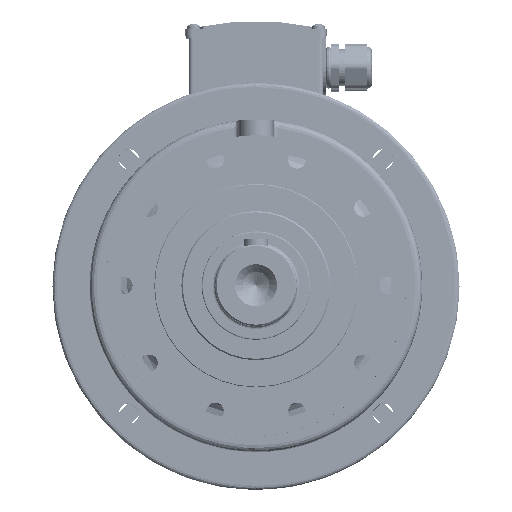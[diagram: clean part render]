
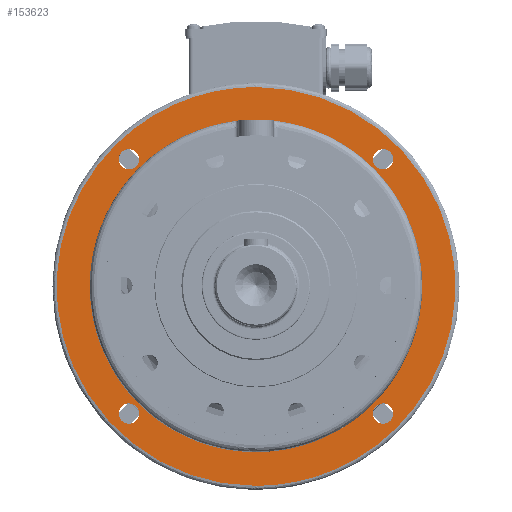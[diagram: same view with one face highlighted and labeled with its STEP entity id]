
A CAD part, top view. The second image highlights one B-rep face of the part: STEP entity #153623.
In plain terms, the highlighted planar face has unit normal (0, 0, 1).
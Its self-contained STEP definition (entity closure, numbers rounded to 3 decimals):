
#7937 = CARTESIAN_POINT ( 'NONE',  ( 86.192, 93.692, -77.5 ) ) ;
#7944 = CARTESIAN_POINT ( 'NONE',  ( 86.192, -93.692, -77.5 ) ) ;
#7962 = CARTESIAN_POINT ( 'NONE',  ( 113., 0., -77.5 ) ) ;
#7969 = CARTESIAN_POINT ( 'NONE',  ( -113., 0., -77.5 ) ) ;
#7993 = CARTESIAN_POINT ( 'NONE',  ( 101.192, -93.692, -77.5 ) ) ;
#7998 = CARTESIAN_POINT ( 'NONE',  ( -101.192, 93.692, -77.5 ) ) ;
#8004 = CARTESIAN_POINT ( 'NONE',  ( -86.192, 93.692, -77.5 ) ) ;
#8021 = CARTESIAN_POINT ( 'NONE',  ( 101.192, 93.692, -77.5 ) ) ;
#8045 = CARTESIAN_POINT ( 'NONE',  ( -101.192, -93.692, -77.5 ) ) ;
#8055 = CARTESIAN_POINT ( 'NONE',  ( -86.192, -93.692, -77.5 ) ) ;
#8290 = CARTESIAN_POINT ( 'NONE',  ( 0., -147., -77.5 ) ) ;
#8317 = CARTESIAN_POINT ( 'NONE',  ( 0., 147., -77.5 ) ) ;
#21658 = EDGE_CURVE ( 'NONE', #160749, #160707, #176989, .T. ) ;
#21743 = EDGE_CURVE ( 'NONE', #160944, #160822, #177000, .T. ) ;
#21975 = EDGE_CURVE ( 'NONE', #160630, #160671, #177147, .T. ) ;
#22130 = EDGE_CURVE ( 'NONE', #160726, #160711, #177204, .T. ) ;
#22274 = EDGE_CURVE ( 'NONE', #160645, #160565, #177271, .T. ) ;
#22374 = EDGE_LOOP ( 'NONE', ( #61704, #61712 ) ) ;
#22390 = EDGE_LOOP ( 'NONE', ( #61723, #61699 ) ) ;
#22513 = EDGE_LOOP ( 'NONE', ( #61692, #61702 ) ) ;
#22559 = EDGE_LOOP ( 'NONE', ( #61729, #61734 ) ) ;
#24824 = EDGE_LOOP ( 'NONE', ( #60730, #61708 ) ) ;
#24837 = EDGE_LOOP ( 'NONE', ( #61732, #61726 ) ) ;
#37409 = CIRCLE ( 'NONE', #90638, 7.5 ) ;
#37687 = CIRCLE ( 'NONE', #90607, 7.5 ) ;
#37716 = CIRCLE ( 'NONE', #90615, 7.5 ) ;
#37748 = CIRCLE ( 'NONE', #90658, 113. ) ;
#37754 = CIRCLE ( 'NONE', #90643, 7.5 ) ;
#44911 = DIRECTION ( 'NONE',  ( -1., 0., 0. ) ) ;
#44923 = DIRECTION ( 'NONE',  ( 0., 0., -1. ) ) ;
#44991 = CARTESIAN_POINT ( 'NONE',  ( 93.692, 93.692, -77.5 ) ) ;
#45356 = DIRECTION ( 'NONE',  ( 0., 0., -1. ) ) ;
#45374 = CARTESIAN_POINT ( 'NONE',  ( 0., 0., -77.5 ) ) ;
#45423 = DIRECTION ( 'NONE',  ( -1., 0., 0. ) ) ;
#45450 = DIRECTION ( 'NONE',  ( 0., 0., -1. ) ) ;
#45526 = CARTESIAN_POINT ( 'NONE',  ( -93.692, 93.692, -77.5 ) ) ;
#45535 = DIRECTION ( 'NONE',  ( -1., 0., 0. ) ) ;
#45553 = DIRECTION ( 'NONE',  ( 0., 0., -1. ) ) ;
#45560 = CARTESIAN_POINT ( 'NONE',  ( -93.692, -93.692, -77.5 ) ) ;
#45562 = DIRECTION ( 'NONE',  ( -1., 0., 0. ) ) ;
#45624 = CARTESIAN_POINT ( 'NONE',  ( -294., 147., -77.5 ) ) ;
#45638 = CARTESIAN_POINT ( 'NONE',  ( 0., -147., -77.5 ) ) ;
#45646 = CARTESIAN_POINT ( 'NONE',  ( 0., 147., -77.5 ) ) ;
#45662 = CARTESIAN_POINT ( 'NONE',  ( 93.692, -93.692, -77.5 ) ) ;
#45672 = DIRECTION ( 'NONE',  ( -1., 0., 0. ) ) ;
#45695 = DIRECTION ( 'NONE',  ( 0., 0., -1. ) ) ;
#45709 = CARTESIAN_POINT ( 'NONE',  ( -294., -147., -77.5 ) ) ;
#52904 = EDGE_CURVE ( 'NONE', #160707, #160749, #37409, .T. ) ;
#53215 = EDGE_CURVE ( 'NONE', #160565, #160645, #37748, .T. ) ;
#53303 = EDGE_CURVE ( 'NONE', #160711, #160726, #37716, .T. ) ;
#53312 = EDGE_CURVE ( 'NONE', #160822, #160944, #37754, .T. ) ;
#53360 = EDGE_CURVE ( 'NONE', #162574, #162537, #150380, .T. ) ;
#53370 = EDGE_CURVE ( 'NONE', #160671, #160630, #37687, .T. ) ;
#55724 = PLANE ( 'NONE',  #79366 ) ;
#55734 = DIRECTION ( 'NONE',  ( 1., 0., 0. ) ) ;
#55739 = DIRECTION ( 'NONE',  ( 0., 0., 1. ) ) ;
#55818 = CARTESIAN_POINT ( 'NONE',  ( 0., 113., -77.5 ) ) ;
#60730 = ORIENTED_EDGE ( 'NONE', *, *, #22274, .T. ) ;
#61692 = ORIENTED_EDGE ( 'NONE', *, *, #105325, .F. ) ;
#61699 = ORIENTED_EDGE ( 'NONE', *, *, #21658, .T. ) ;
#61702 = ORIENTED_EDGE ( 'NONE', *, *, #53360, .F. ) ;
#61704 = ORIENTED_EDGE ( 'NONE', *, *, #53303, .T. ) ;
#61708 = ORIENTED_EDGE ( 'NONE', *, *, #53215, .T. ) ;
#61712 = ORIENTED_EDGE ( 'NONE', *, *, #22130, .T. ) ;
#61723 = ORIENTED_EDGE ( 'NONE', *, *, #52904, .T. ) ;
#61726 = ORIENTED_EDGE ( 'NONE', *, *, #21743, .T. ) ;
#61729 = ORIENTED_EDGE ( 'NONE', *, *, #53370, .T. ) ;
#61732 = ORIENTED_EDGE ( 'NONE', *, *, #53312, .T. ) ;
#61734 = ORIENTED_EDGE ( 'NONE', *, *, #21975, .T. ) ;
#66608 = CARTESIAN_POINT ( 'NONE',  ( 294., 147., -77.5 ) ) ;
#66651 = CARTESIAN_POINT ( 'NONE',  ( 294., -147., -77.5 ) ) ;
#66656 = CARTESIAN_POINT ( 'NONE',  ( 0., -147., -77.5 ) ) ;
#66722 = CARTESIAN_POINT ( 'NONE',  ( 0., 147., -77.5 ) ) ;
#75521 = FACE_BOUND ( 'NONE', #22559, .T. ) ;
#75527 = FACE_BOUND ( 'NONE', #24824, .T. ) ;
#75531 = FACE_BOUND ( 'NONE', #24837, .T. ) ;
#75580 = FACE_OUTER_BOUND ( 'NONE', #22513, .T. ) ;
#75581 = FACE_BOUND ( 'NONE', #22390, .T. ) ;
#75584 = FACE_BOUND ( 'NONE', #22374, .T. ) ;
#79366 = AXIS2_PLACEMENT_3D ( 'NONE', #55818, #55739, #55734 ) ;
#90607 = AXIS2_PLACEMENT_3D ( 'NONE', #45662, #45695, #45672 ) ;
#90615 = AXIS2_PLACEMENT_3D ( 'NONE', #45526, #45553, #45535 ) ;
#90638 = AXIS2_PLACEMENT_3D ( 'NONE', #44991, #44923, #44911 ) ;
#90643 = AXIS2_PLACEMENT_3D ( 'NONE', #45560, #45450, #45562 ) ;
#90658 = AXIS2_PLACEMENT_3D ( 'NONE', #45374, #45356, #45423 ) ;
#91992 = AXIS2_PLACEMENT_3D ( 'NONE', #180012, #180071, #180050 ) ;
#92003 = AXIS2_PLACEMENT_3D ( 'NONE', #178166, #178159, #178170 ) ;
#92028 = AXIS2_PLACEMENT_3D ( 'NONE', #178336, #178375, #178333 ) ;
#92031 = AXIS2_PLACEMENT_3D ( 'NONE', #180156, #180145, #180129 ) ;
#92045 = AXIS2_PLACEMENT_3D ( 'NONE', #180429, #180362, #180372 ) ;
#105325 = EDGE_CURVE ( 'NONE', #162537, #162574, #150416, .T. ) ;
#150380 =( BOUNDED_CURVE ( )  B_SPLINE_CURVE ( 3, ( #45638, #45709, #45624, #45646 ),
 .UNSPECIFIED., .F., .F. ) 
 B_SPLINE_CURVE_WITH_KNOTS ( ( 4, 4 ),
 ( 0.5, 1. ),
 .UNSPECIFIED. ) 
 CURVE ( )  GEOMETRIC_REPRESENTATION_ITEM ( )  RATIONAL_B_SPLINE_CURVE ( ( 1., 0.333, 0.333, 1. ) ) 
 REPRESENTATION_ITEM ( '' )  );
#150416 =( BOUNDED_CURVE ( )  B_SPLINE_CURVE ( 3, ( #66722, #66608, #66651, #66656 ),
 .UNSPECIFIED., .F., .F. ) 
 B_SPLINE_CURVE_WITH_KNOTS ( ( 4, 4 ),
 ( 0., 0.5 ),
 .UNSPECIFIED. ) 
 CURVE ( )  GEOMETRIC_REPRESENTATION_ITEM ( )  RATIONAL_B_SPLINE_CURVE ( ( 1., 0.333, 0.333, 1. ) ) 
 REPRESENTATION_ITEM ( '' )  );
#153623 = ADVANCED_FACE ( 'NONE', ( #75527, #75580, #75581, #75584, #75531, #75521 ), #55724, .T. ) ;
#160565 = VERTEX_POINT ( 'NONE', #7962 ) ;
#160630 = VERTEX_POINT ( 'NONE', #7993 ) ;
#160645 = VERTEX_POINT ( 'NONE', #7969 ) ;
#160671 = VERTEX_POINT ( 'NONE', #7944 ) ;
#160707 = VERTEX_POINT ( 'NONE', #7937 ) ;
#160711 = VERTEX_POINT ( 'NONE', #7998 ) ;
#160726 = VERTEX_POINT ( 'NONE', #8004 ) ;
#160749 = VERTEX_POINT ( 'NONE', #8021 ) ;
#160822 = VERTEX_POINT ( 'NONE', #8045 ) ;
#160944 = VERTEX_POINT ( 'NONE', #8055 ) ;
#162537 = VERTEX_POINT ( 'NONE', #8317 ) ;
#162574 = VERTEX_POINT ( 'NONE', #8290 ) ;
#176989 = CIRCLE ( 'NONE', #91992, 7.5 ) ;
#177000 = CIRCLE ( 'NONE', #92031, 7.5 ) ;
#177147 = CIRCLE ( 'NONE', #92045, 7.5 ) ;
#177204 = CIRCLE ( 'NONE', #92003, 7.5 ) ;
#177271 = CIRCLE ( 'NONE', #92028, 113. ) ;
#178159 = DIRECTION ( 'NONE',  ( 0., 0., -1. ) ) ;
#178166 = CARTESIAN_POINT ( 'NONE',  ( -93.692, 93.692, -77.5 ) ) ;
#178170 = DIRECTION ( 'NONE',  ( -1., 0., 0. ) ) ;
#178333 = DIRECTION ( 'NONE',  ( -1., 0., 0. ) ) ;
#178336 = CARTESIAN_POINT ( 'NONE',  ( 0., 0., -77.5 ) ) ;
#178375 = DIRECTION ( 'NONE',  ( 0., 0., -1. ) ) ;
#180012 = CARTESIAN_POINT ( 'NONE',  ( 93.692, 93.692, -77.5 ) ) ;
#180050 = DIRECTION ( 'NONE',  ( -1., 0., 0. ) ) ;
#180071 = DIRECTION ( 'NONE',  ( 0., 0., -1. ) ) ;
#180129 = DIRECTION ( 'NONE',  ( -1., 0., 0. ) ) ;
#180145 = DIRECTION ( 'NONE',  ( 0., 0., -1. ) ) ;
#180156 = CARTESIAN_POINT ( 'NONE',  ( -93.692, -93.692, -77.5 ) ) ;
#180362 = DIRECTION ( 'NONE',  ( 0., 0., -1. ) ) ;
#180372 = DIRECTION ( 'NONE',  ( -1., 0., 0. ) ) ;
#180429 = CARTESIAN_POINT ( 'NONE',  ( 93.692, -93.692, -77.5 ) ) ;
